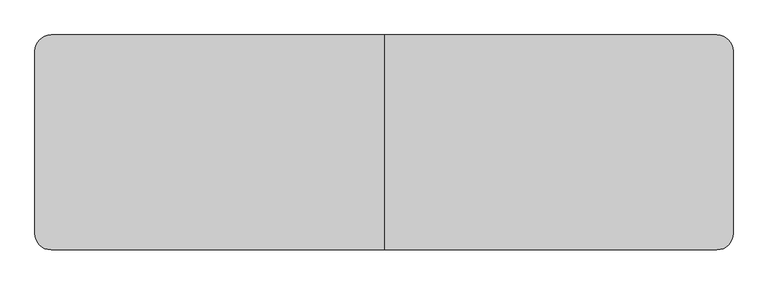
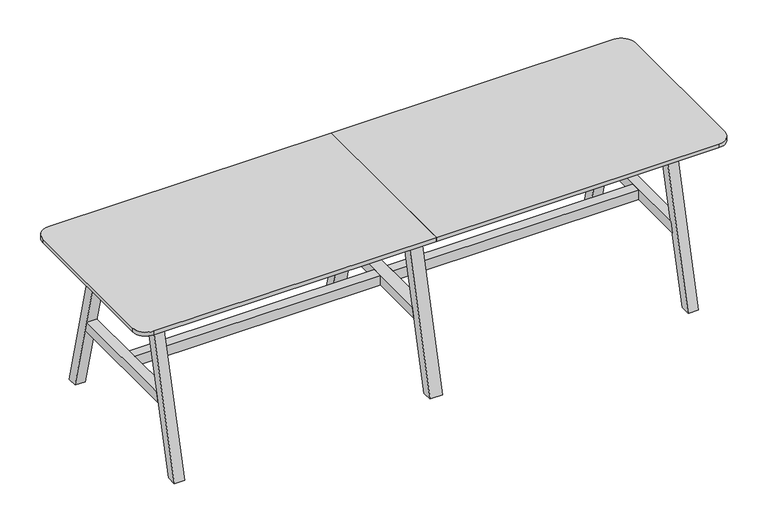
"""IFC4 building model written with IfcOpenShell, lengths in millimetres: furniture geometry, BDG_BossDesign_Tbls_AgentTables6Legs : AGE-DT-6L-2600-800-3D."""

from ifc_helpers import new_model, si_unit, point, frame, frame_2d, origin, place, context, project, spatial, polyline, circle_curve, trimmed, segment, composite_curve, outline, extrude, source, transform, mapped, element, save


def furniture_bf5d280a(model_context):
    return source(origin(), model_context, "Body", "SweptSolid", [
        extrude(outline(polyline([(400.0, 0.0), (354.9999949, 0.0), (185.5, 660.0), (230.5000051, 660.0), (400.0, 0.0)])), frame((-27.5, 0.0, 0.0), z_axis=(1.0, 0.0, 0.0), x_axis=(0.0, 1.0, 0.0)), (0.0, 0.0, 1.0), 55.0),
        extrude(outline(polyline([(-400.0, 0.0), (-230.5000051, 660.0), (-185.5, 660.0), (-354.9999949, 0.0), (-400.0, 0.0)])), frame((-27.5, 0.0, 0.0), z_axis=(1.0, 0.0, 0.0), x_axis=(0.0, 1.0, 0.0)), (0.0, 0.0, 1.0), 55.0),
        extrude(outline(polyline([(277.9545427, 300.0), (-277.9545427, 300.0), (-266.3977249, 345.0), (266.3977249, 345.0), (277.9545427, 300.0)])), frame((-27.5, 0.0, 0.0), z_axis=(1.0, 0.0, 0.0), x_axis=(0.0, 1.0, 0.0)), (0.0, 0.0, 1.0), 55.0),
        extrude(outline(composite_curve([segment(polyline([(0.0, 400.0), (0.0, -400.0), (-1240.0, -400.0)]), True, "CONTINUOUS"), segment(trimmed(circle_curve(frame_2d((-1240.0, -340.0)), 60.0), [point((-1240.0, -400.0))], [point((-1300.0, -340.0))], False, "CARTESIAN"), True, "CONTINUOUS"), segment(polyline([(-1300.0, -340.0), (-1300.0, 340.0)]), True, "CONTINUOUS"), segment(trimmed(circle_curve(frame_2d((-1240.0, 340.0)), 60.0), [point((-1300.0, 340.0))], [point((-1240.0, 400.0))], False, "CARTESIAN"), True, "CONTINUOUS"), segment(polyline([(-1240.0, 400.0), (0.0, 400.0)]), True, "CONTINUOUS")], self_intersect=False)), frame((0.0, 0.0, 722.0), z_axis=(0.0, 0.0, 1.0), x_axis=(1.0, 0.0, 0.0)), (0.0, 0.0, 1.0), 18.0),
        extrude(outline(polyline([(-266.3977249, 345.0), (266.3977249, 345.0), (277.9545427, 300.0), (-277.9545427, 300.0), (-266.3977249, 345.0)])), frame((1105.0, 0.0, 0.0), z_axis=(1.0, 0.0, 0.0), x_axis=(0.0, 1.0, 0.0)), (0.0, 0.0, 1.0), 45.0),
        extrude(outline(polyline([(400.0, 0.0), (354.9999949, 0.0), (185.5, 660.0), (230.5000051, 660.0), (400.0, 0.0)])), frame((-1150.0, 0.0, 0.0), z_axis=(1.0, 0.0, 0.0), x_axis=(0.0, 1.0, 0.0)), (0.0, 0.0, 1.0), 45.0),
        extrude(outline(polyline([(-400.0, 0.0), (-230.5000051, 660.0), (-185.5, 660.0), (-354.9999949, 0.0), (-400.0, 0.0)])), frame((-1150.0, 0.0, 0.0), z_axis=(1.0, 0.0, 0.0), x_axis=(0.0, 1.0, 0.0)), (0.0, 0.0, 1.0), 45.0),
        extrude(outline(polyline([(-266.3977249, 345.0), (266.3977249, 345.0), (277.9545427, 300.0), (-277.9545427, 300.0), (-266.3977249, 345.0)])), frame((-1150.0, 0.0, 0.0), z_axis=(1.0, 0.0, 0.0), x_axis=(0.0, 1.0, 0.0)), (0.0, 0.0, 1.0), 45.0),
        extrude(outline(polyline([(-226.6006165, 634.973938), (-204.2770691, 722.0), (-179.5, 722.0), (-201.8235474, 634.973938), (-226.6006165, 634.973938)])), frame((-1105.0, 0.0, 0.0), z_axis=(1.0, 0.0, 0.0), x_axis=(0.0, 1.0, 0.0)), (0.0, 0.0, 1.0), 2210.0),
        extrude(outline(polyline([(226.6006165, 634.973938), (201.8235474, 634.973938), (179.5, 722.0), (204.2770691, 722.0), (226.6006165, 634.973938)])), frame((-1105.0, 0.0, 0.0), z_axis=(1.0, 0.0, 0.0), x_axis=(0.0, 1.0, 0.0)), (0.0, 0.0, 1.0), 2210.0),
        extrude(outline(polyline([(399.7999878, 0.0), (354.7999827, 0.0), (185.5, 660.0), (230.5000051, 660.0), (399.7999878, 0.0)])), frame((1105.0, 0.0, 0.0), z_axis=(1.0, 0.0, 0.0), x_axis=(0.0, 1.0, 0.0)), (0.0, 0.0, 1.0), 45.0),
        extrude(outline(polyline([(-399.7999878, 0.0), (-230.5000051, 660.0), (-185.5, 660.0), (-354.7999827, 0.0), (-399.7999878, 0.0)])), frame((1105.0, 0.0, 0.0), z_axis=(1.0, 0.0, 0.0), x_axis=(0.0, 1.0, 0.0)), (0.0, 0.0, 1.0), 45.0),
        extrude(outline(polyline([(-27.5, 22.5000305), (-27.5, -22.5000305), (-1105.0, -22.5000305), (-1105.0, 22.5000305), (-27.5, 22.5000305)])), frame((0.0, 0.0, 300.0), z_axis=(0.0, 0.0, 1.0), x_axis=(1.0, 0.0, 0.0)), (0.0, 0.0, 1.0), 45.0),
        extrude(outline(polyline([(27.5, -22.5000305), (27.5, 22.5000305), (1105.0, 22.5000305), (1105.0, -22.5000305), (27.5, -22.5000305)])), frame((0.0, 0.0, 300.0), z_axis=(0.0, 0.0, 1.0), x_axis=(1.0, 0.0, 0.0)), (0.0, 0.0, 1.0), 45.0),
        extrude(outline(composite_curve([segment(trimmed(circle_curve(frame_2d((1240.0, 340.0)), 60.0), [point((1240.0, 400.0))], [point((1300.0, 340.0))], False, "CARTESIAN"), True, "CONTINUOUS"), segment(polyline([(1300.0, 340.0), (1300.0, -340.0)]), True, "CONTINUOUS"), segment(trimmed(circle_curve(frame_2d((1240.0, -340.0)), 60.0), [point((1300.0, -340.0))], [point((1240.0, -400.0))], False, "CARTESIAN"), True, "CONTINUOUS"), segment(polyline([(1240.0, -400.0), (0.0, -400.0), (0.0, 400.0), (1240.0, 400.0)]), True, "CONTINUOUS")], self_intersect=False)), frame((0.0, 0.0, 722.0), z_axis=(0.0, 0.0, 1.0), x_axis=(1.0, 0.0, 0.0)), (0.0, 0.0, 1.0), 18.0),
    ])


if __name__ == "__main__":
    model = new_model("IFC4")
    model_context = context("Model", 3, world=origin())
    ifc_project = project(units=[si_unit("LENGTHUNIT", "METRE", prefix="MILLI")], contexts=[model_context])
    site = spatial("IfcSite", under=ifc_project)
    building = spatial("IfcBuilding", under=site)
    placement = place(None, origin())
    furniture_shape = furniture_bf5d280a(model_context)
    element("IfcFurniture", 1, ObjectType="BDG_BossDesign_Tbls_AgentTables6Legs : AGE-DT-6L-2600-800-3D", at=placement, inside=building, context=model_context, shape_type="MappedRepresentation", body=[
        mapped(furniture_shape, transform((0.0, 0.0, 0.0), x_axis=(1.0, 0.0, 0.0), y_axis=(0.0, 1.0, 0.0), z_axis=(0.0, 0.0, 1.0))),
    ])
    save(model, "model.ifc")
